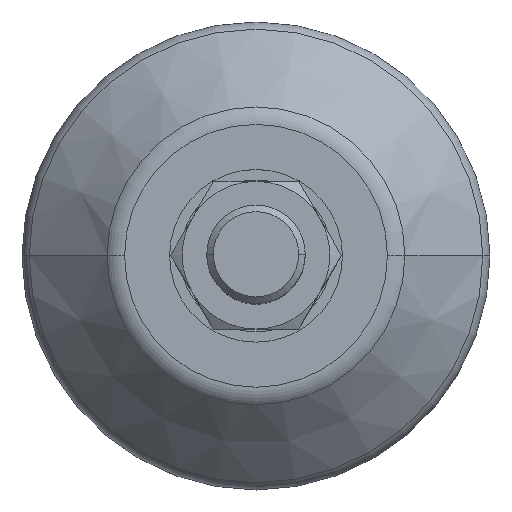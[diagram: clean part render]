
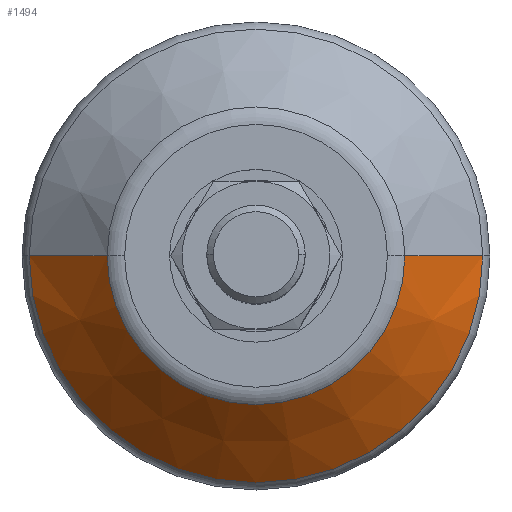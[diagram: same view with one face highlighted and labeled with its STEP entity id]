
A CAD part, top view. The second image highlights one B-rep face of the part: STEP entity #1494.
In plain terms, the highlighted conical face has half-angle 45 degrees and reference radius 30.5 mm.
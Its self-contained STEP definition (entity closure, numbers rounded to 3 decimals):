
#86 = DIRECTION ( 'NONE',  ( -1., 0., 0. ) ) ;
#134 = CONICAL_SURFACE ( 'NONE', #1601, 30.5, 0.785 ) ;
#152 = CARTESIAN_POINT ( 'NONE',  ( -24.172, 0., -31.172 ) ) ;
#296 = EDGE_LOOP ( 'NONE', ( #675, #2669, #1370, #429 ) ) ;
#327 = EDGE_CURVE ( 'NONE', #2102, #1972, #368, .T. ) ;
#368 = CIRCLE ( 'NONE', #420, 36.828 ) ;
#420 = AXIS2_PLACEMENT_3D ( 'NONE', #1580, #577, #1814 ) ;
#429 = ORIENTED_EDGE ( 'NONE', *, *, #327, .F. ) ;
#541 = CIRCLE ( 'NONE', #1646, 24.172 ) ;
#549 = CARTESIAN_POINT ( 'NONE',  ( 36.828, 0., -43.828 ) ) ;
#577 = DIRECTION ( 'NONE',  ( 0., 0., -1. ) ) ;
#653 = EDGE_CURVE ( 'NONE', #928, #1972, #1021, .T. ) ;
#675 = ORIENTED_EDGE ( 'NONE', *, *, #2564, .F. ) ;
#813 = FACE_OUTER_BOUND ( 'NONE', #296, .T. ) ;
#928 = VERTEX_POINT ( 'NONE', #152 ) ;
#1021 = LINE ( 'NONE', #1823, #1957 ) ;
#1208 = VERTEX_POINT ( 'NONE', #2529 ) ;
#1224 = CARTESIAN_POINT ( 'NONE',  ( 0., 0., -37.5 ) ) ;
#1260 = CARTESIAN_POINT ( 'NONE',  ( -36.828, 0., -43.828 ) ) ;
#1331 = CARTESIAN_POINT ( 'NONE',  ( 0., 0., -31.172 ) ) ;
#1366 = DIRECTION ( 'NONE',  ( 0., 0., -1. ) ) ;
#1370 = ORIENTED_EDGE ( 'NONE', *, *, #653, .T. ) ;
#1494 = ADVANCED_FACE ( 'NONE', ( #813 ), #134, .T. ) ;
#1534 = CARTESIAN_POINT ( 'NONE',  ( 30.5, 0., -37.5 ) ) ;
#1580 = CARTESIAN_POINT ( 'NONE',  ( 0., 0., -43.828 ) ) ;
#1601 = AXIS2_PLACEMENT_3D ( 'NONE', #1224, #2033, #1621 ) ;
#1621 = DIRECTION ( 'NONE',  ( -1., 0., 0. ) ) ;
#1646 = AXIS2_PLACEMENT_3D ( 'NONE', #1331, #1366, #86 ) ;
#1814 = DIRECTION ( 'NONE',  ( -1., 0., 0. ) ) ;
#1823 = CARTESIAN_POINT ( 'NONE',  ( -30.5, 0., -37.5 ) ) ;
#1957 = VECTOR ( 'NONE', #2406, 1000. ) ;
#1972 = VERTEX_POINT ( 'NONE', #1260 ) ;
#2033 = DIRECTION ( 'NONE',  ( 0., 0., -1. ) ) ;
#2102 = VERTEX_POINT ( 'NONE', #549 ) ;
#2103 = EDGE_CURVE ( 'NONE', #1208, #928, #541, .T. ) ;
#2121 = LINE ( 'NONE', #1534, #2556 ) ;
#2406 = DIRECTION ( 'NONE',  ( -0.707, 0., -0.707 ) ) ;
#2529 = CARTESIAN_POINT ( 'NONE',  ( 24.172, 0., -31.172 ) ) ;
#2531 = DIRECTION ( 'NONE',  ( 0.707, 0., -0.707 ) ) ;
#2556 = VECTOR ( 'NONE', #2531, 1000. ) ;
#2564 = EDGE_CURVE ( 'NONE', #1208, #2102, #2121, .T. ) ;
#2669 = ORIENTED_EDGE ( 'NONE', *, *, #2103, .T. ) ;
